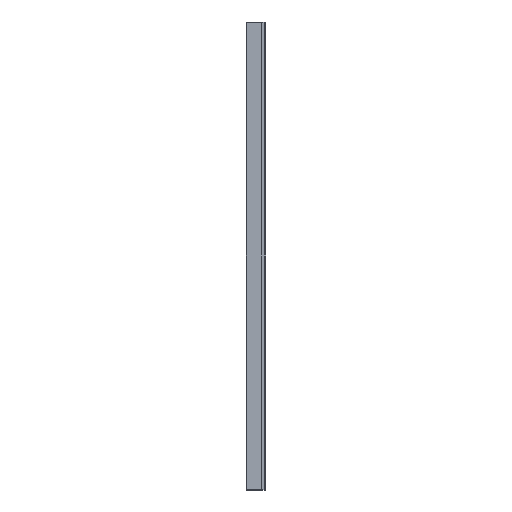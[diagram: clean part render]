
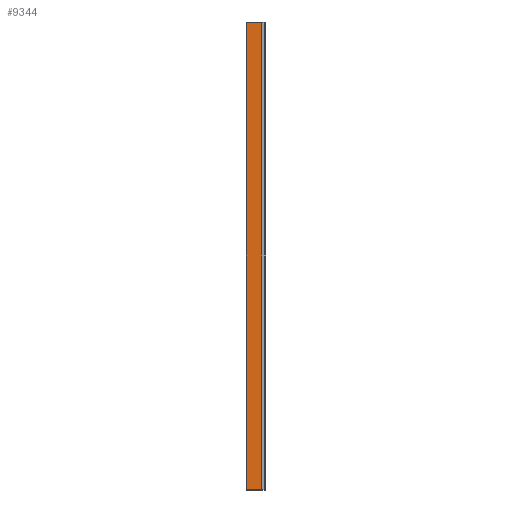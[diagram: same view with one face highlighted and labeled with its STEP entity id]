
A CAD part, left-side view. The second image highlights one B-rep face of the part: STEP entity #9344.
In plain terms, the highlighted planar face has unit normal (-1, 0, 0).
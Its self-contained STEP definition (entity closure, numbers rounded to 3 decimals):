
#310 = DIRECTION ( 'NONE',  ( 0., -1., 0. ) ) ;
#790 = ORIENTED_EDGE ( 'NONE', *, *, #21221, .F. ) ;
#1746 = DIRECTION ( 'NONE',  ( 0., -1., 0. ) ) ;
#3731 = VERTEX_POINT ( 'NONE', #6971 ) ;
#6645 = LINE ( 'NONE', #9499, #18033 ) ;
#6777 = PLANE ( 'NONE',  #19084 ) ;
#6971 = CARTESIAN_POINT ( 'NONE',  ( -19., 26.417, -320. ) ) ;
#6974 = LINE ( 'NONE', #8927, #8425 ) ;
#7088 = ORIENTED_EDGE ( 'NONE', *, *, #16019, .T. ) ;
#8425 = VECTOR ( 'NONE', #1746, 1000. ) ;
#8927 = CARTESIAN_POINT ( 'NONE',  ( -19., 26.417, 320. ) ) ;
#9208 = CARTESIAN_POINT ( 'NONE',  ( -19., 5.9, 320. ) ) ;
#9344 = ADVANCED_FACE ( 'NONE', ( #21009 ), #6777, .F. ) ;
#9499 = CARTESIAN_POINT ( 'NONE',  ( -19., 26.417, -320. ) ) ;
#10594 = VECTOR ( 'NONE', #21518, 1000. ) ;
#13142 = CARTESIAN_POINT ( 'NONE',  ( -19., 26.417, 320. ) ) ;
#14692 = CARTESIAN_POINT ( 'NONE',  ( -19., 5.9, -320. ) ) ;
#15656 = DIRECTION ( 'NONE',  ( 1., 0., 0. ) ) ;
#15883 = EDGE_CURVE ( 'NONE', #19638, #26300, #6974, .T. ) ;
#16019 = EDGE_CURVE ( 'NONE', #19638, #3731, #25140, .T. ) ;
#18033 = VECTOR ( 'NONE', #310, 1000. ) ;
#18106 = CARTESIAN_POINT ( 'NONE',  ( -19., 26.417, 320. ) ) ;
#19084 = AXIS2_PLACEMENT_3D ( 'NONE', #18106, #15656, #24804 ) ;
#19520 = EDGE_LOOP ( 'NONE', ( #24166, #790, #20808, #7088 ) ) ;
#19638 = VERTEX_POINT ( 'NONE', #13142 ) ;
#20808 = ORIENTED_EDGE ( 'NONE', *, *, #15883, .F. ) ;
#21009 = FACE_OUTER_BOUND ( 'NONE', #19520, .T. ) ;
#21208 = VECTOR ( 'NONE', #25223, 1000. ) ;
#21221 = EDGE_CURVE ( 'NONE', #26300, #27185, #22333, .T. ) ;
#21518 = DIRECTION ( 'NONE',  ( 0., 0., -1. ) ) ;
#22333 = LINE ( 'NONE', #28486, #10594 ) ;
#22837 = CARTESIAN_POINT ( 'NONE',  ( -19., 26.417, 320. ) ) ;
#22982 = EDGE_CURVE ( 'NONE', #3731, #27185, #6645, .T. ) ;
#24166 = ORIENTED_EDGE ( 'NONE', *, *, #22982, .T. ) ;
#24804 = DIRECTION ( 'NONE',  ( 0., 0., -1. ) ) ;
#25140 = LINE ( 'NONE', #22837, #21208 ) ;
#25223 = DIRECTION ( 'NONE',  ( 0., 0., -1. ) ) ;
#26300 = VERTEX_POINT ( 'NONE', #9208 ) ;
#27185 = VERTEX_POINT ( 'NONE', #14692 ) ;
#28486 = CARTESIAN_POINT ( 'NONE',  ( -19., 5.9, 320. ) ) ;
